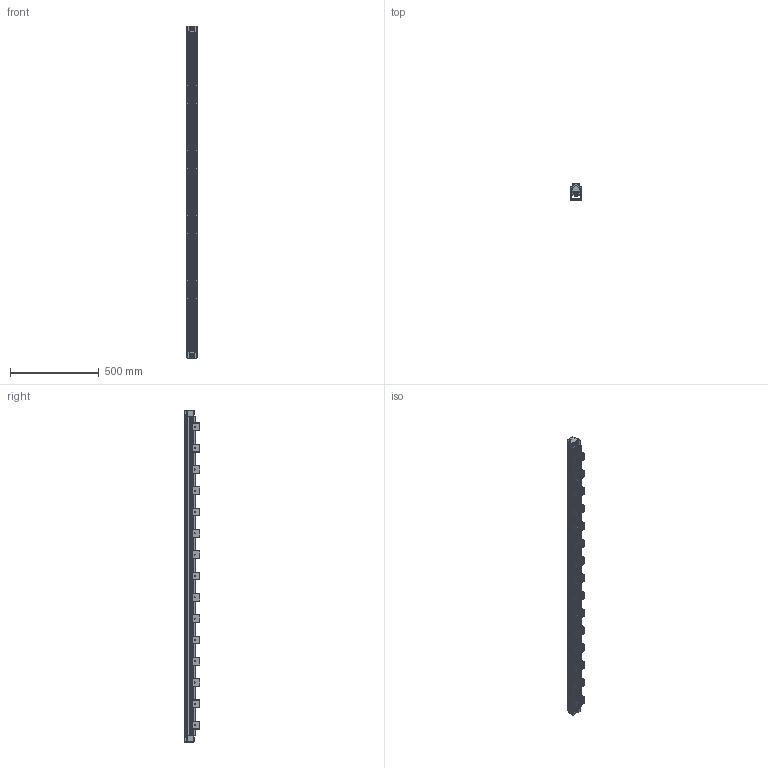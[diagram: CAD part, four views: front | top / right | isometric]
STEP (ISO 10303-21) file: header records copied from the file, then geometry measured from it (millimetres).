
FILE_DESCRIPTION((''),'2;1');
FILE_NAME('P-LSG-1800_ASM_ASM','2019-06-11T',('HP'),(''),'PRO/ENGINEER BY PARAMETRIC TECHNOLOGY CORPORATION, 2010280','PRO/ENGINEER BY PARAMETRIC TECHNOLOGY CORPORATION, 2010280','');
FILE_SCHEMA(('CONFIG_CONTROL_DESIGN'));
Length unit declared in the file: millimetre
Products named in the file (10): SRP_2; CEBAN_2; FHBL_1; DIANKUAI_2; PCBA_1; FSZ_1; DUANBAN_2; 19M-6H_1; P-LSG-1800_ASM_6_ASM; P-LSG-1800_ASM_ASM
Assembly tree (43 placements, depth 3):
  P-LSG-1800_ASM_ASM
    P-LSG-1800_ASM_6_ASM
      SRP_2
      CEBAN_2  x2
      FHBL_1
      DIANKUAI_2
      PCBA_1  x18
      FSZ_1  x15
      DUANBAN_2  x2
      19M-6H_1  x2
Bounding box: 58 x 90.1 x 1870 mm (x, y, z)
Volume: 5559677.4 mm3; surface area: 1930605.8 mm2
Topology: 42 solids, 114 shells, 5246 faces, 13747 edges, 8625 vertices
Faces by surface type: plane 3072, cylinder 1178, cone 528, sphere 468
Entity records: 46150 total; most frequent: CARTESIAN_POINT 8454, DIRECTION 8021, ORIENTED_EDGE 7446, EDGE_CURVE 3723, AXIS2_PLACEMENT_3D 2882, VERTEX_POINT 2431, VECTOR 2257, LINE 2257
